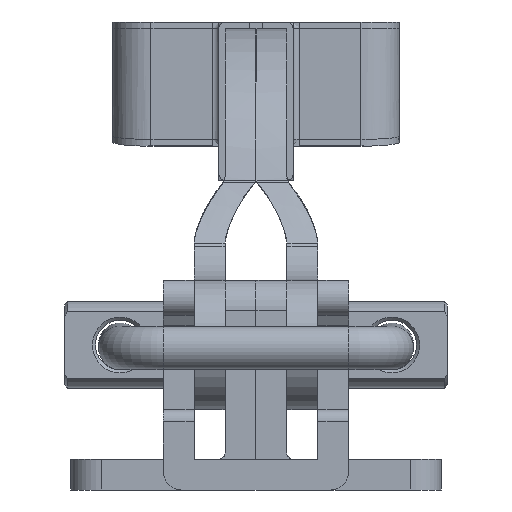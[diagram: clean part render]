
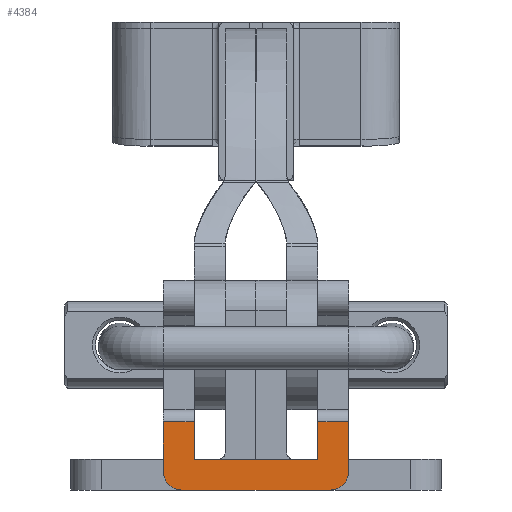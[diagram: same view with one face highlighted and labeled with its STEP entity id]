
A CAD part, left-side view. The second image highlights one B-rep face of the part: STEP entity #4384.
In plain terms, the highlighted planar face has unit normal (-1, 0, 0) as drawn and (1, 0, 0) by its records, which use the part's own axes.
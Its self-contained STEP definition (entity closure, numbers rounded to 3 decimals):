
#270=LINE('',#6820,#612);
#280=LINE('',#6845,#622);
#284=LINE('',#6861,#626);
#285=LINE('',#6863,#627);
#286=LINE('',#6865,#628);
#287=LINE('',#6867,#629);
#288=LINE('',#6868,#630);
#289=LINE('',#6869,#631);
#612=VECTOR('',#5486,8.073);
#622=VECTOR('',#5506,8.073);
#626=VECTOR('',#5520,5.);
#627=VECTOR('',#5521,6.073);
#628=VECTOR('',#5522,20.);
#629=VECTOR('',#5523,6.073);
#630=VECTOR('',#5524,5.);
#631=VECTOR('',#5525,24.);
#913=PLANE('',#4751);
#1245=FACE_OUTER_BOUND('',#1550,.T.);
#1550=EDGE_LOOP('',(#3400,#3401,#3402,#3403,#3404,#3405,#3406,#3407,#3408,
#3409));
#1844=CIRCLE('',#4736,3.);
#1850=CIRCLE('',#4745,3.);
#2098=VERTEX_POINT('',#6798);
#2099=VERTEX_POINT('',#6800);
#2107=VERTEX_POINT('',#6818);
#2115=VERTEX_POINT('',#6838);
#2116=VERTEX_POINT('',#6839);
#2117=VERTEX_POINT('',#6844);
#2124=VERTEX_POINT('',#6860);
#2125=VERTEX_POINT('',#6862);
#2126=VERTEX_POINT('',#6864);
#2127=VERTEX_POINT('',#6866);
#2571=EDGE_CURVE('',#2098,#2099,#1844,.T.);
#2581=EDGE_CURVE('',#2107,#2098,#270,.T.);
#2590=EDGE_CURVE('',#2115,#2116,#1850,.T.);
#2593=EDGE_CURVE('',#2116,#2117,#280,.T.);
#2601=EDGE_CURVE('',#2124,#2107,#284,.T.);
#2602=EDGE_CURVE('',#2124,#2125,#285,.T.);
#2603=EDGE_CURVE('',#2125,#2126,#286,.T.);
#2604=EDGE_CURVE('',#2126,#2127,#287,.T.);
#2605=EDGE_CURVE('',#2117,#2127,#288,.T.);
#2606=EDGE_CURVE('',#2099,#2115,#289,.T.);
#3400=ORIENTED_EDGE('',*,*,#2571,.F.);
#3401=ORIENTED_EDGE('',*,*,#2581,.F.);
#3402=ORIENTED_EDGE('',*,*,#2601,.F.);
#3403=ORIENTED_EDGE('',*,*,#2602,.T.);
#3404=ORIENTED_EDGE('',*,*,#2603,.T.);
#3405=ORIENTED_EDGE('',*,*,#2604,.T.);
#3406=ORIENTED_EDGE('',*,*,#2605,.F.);
#3407=ORIENTED_EDGE('',*,*,#2593,.F.);
#3408=ORIENTED_EDGE('',*,*,#2590,.F.);
#3409=ORIENTED_EDGE('',*,*,#2606,.F.);
#4384=ADVANCED_FACE('',(#1245),#913,.T.);
#4736=AXIS2_PLACEMENT_3D('',#6801,#5469,#5470);
#4745=AXIS2_PLACEMENT_3D('',#6840,#5500,#5501);
#4751=AXIS2_PLACEMENT_3D('',#6859,#5518,#5519);
#5469=DIRECTION('center_axis',(-1.,0.,0.));
#5470=DIRECTION('ref_axis',(0.,-0.707,-0.707));
#5486=DIRECTION('',(0.,-1.,0.));
#5500=DIRECTION('center_axis',(-1.,0.,0.));
#5501=DIRECTION('ref_axis',(0.,-0.707,0.707));
#5506=DIRECTION('',(0.,1.,0.));
#5518=DIRECTION('center_axis',(1.,0.,0.));
#5519=DIRECTION('ref_axis',(0.,1.,0.));
#5520=DIRECTION('',(0.,0.,-1.));
#5521=DIRECTION('',(0.,-1.,0.));
#5522=DIRECTION('',(0.,0.,1.));
#5523=DIRECTION('',(0.,1.,0.));
#5524=DIRECTION('',(0.,0.,-1.));
#5525=DIRECTION('',(0.,0.,1.));
#6798=CARTESIAN_POINT('',(38.,3.,-15.));
#6800=CARTESIAN_POINT('',(38.,0.,-12.));
#6801=CARTESIAN_POINT('Origin',(38.,3.,-12.));
#6818=CARTESIAN_POINT('',(38.,11.073,-15.));
#6820=CARTESIAN_POINT('',(38.,0.,-15.));
#6838=CARTESIAN_POINT('',(38.,0.,12.));
#6839=CARTESIAN_POINT('',(38.,3.,15.));
#6840=CARTESIAN_POINT('Origin',(38.,3.,12.));
#6844=CARTESIAN_POINT('',(38.,11.073,15.));
#6845=CARTESIAN_POINT('',(38.,0.,15.));
#6859=CARTESIAN_POINT('Origin',(38.,0.,0.));
#6860=CARTESIAN_POINT('',(38.,11.073,-10.));
#6861=CARTESIAN_POINT('',(38.,11.073,7.5));
#6862=CARTESIAN_POINT('',(38.,5.,-10.));
#6863=CARTESIAN_POINT('',(38.,8.5,-10.));
#6864=CARTESIAN_POINT('',(38.,5.,10.));
#6865=CARTESIAN_POINT('',(38.,5.,0.));
#6866=CARTESIAN_POINT('',(38.,11.073,10.));
#6867=CARTESIAN_POINT('',(38.,8.5,10.));
#6868=CARTESIAN_POINT('',(38.,11.073,7.5));
#6869=CARTESIAN_POINT('',(38.,0.,0.));
